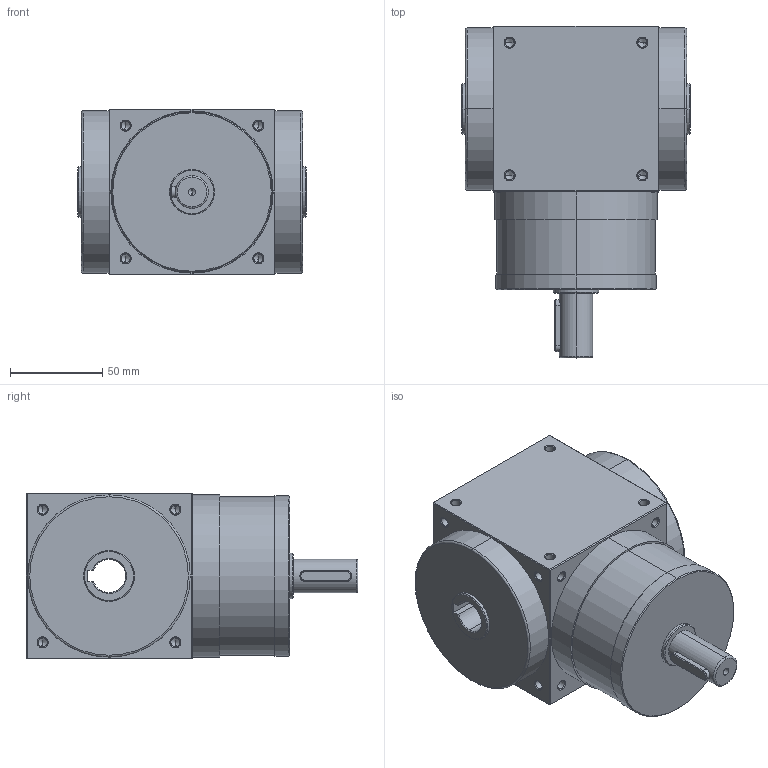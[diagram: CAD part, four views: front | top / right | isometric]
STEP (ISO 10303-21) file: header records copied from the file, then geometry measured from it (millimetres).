
FILE_DESCRIPTION (( 'STEP AP214' ), '1' );
FILE_NAME ('AT090-H-L1.STEP', '2019-11-04T09:07:09', ( 'User' ), ( 'Far123' ), 'SwSTEP 2.0', 'SolidWorks 2015', '' );
FILE_SCHEMA (( 'AUTOMOTIVE_DESIGN' ));
Length unit declared in the file: millimetre
Products named in the file (1): AT090-H-L1
Bounding box: 124 x 180 x 90 mm (x, y, z)
Volume: 1197011.9 mm3; surface area: 84833 mm2
Topology: 1 solids, 1 shells, 284 faces, 736 edges, 407 vertices
Faces by surface type: cylinder 121, cone 114, plane 43, torus 6
Entity records: 9276 total; most frequent: CARTESIAN_POINT 1932, ORIENTED_EDGE 1372, DIRECTION 1310, EDGE_CURVE 686, AXIS2_PLACEMENT_3D 505, VERTEX_POINT 407, EDGE_LOOP 321, LINE 300
